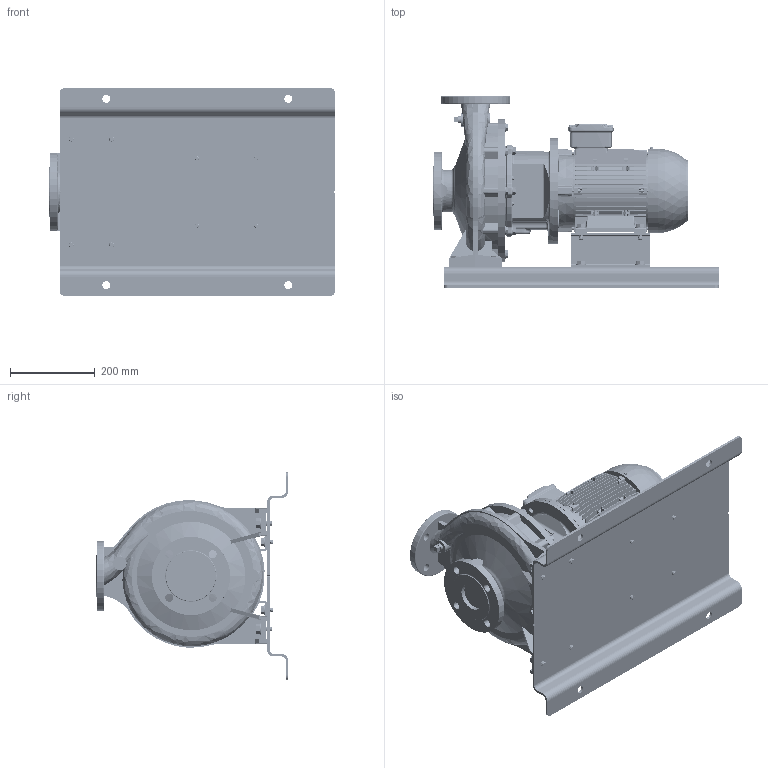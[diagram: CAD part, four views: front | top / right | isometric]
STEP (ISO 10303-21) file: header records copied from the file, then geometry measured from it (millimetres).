
FILE_DESCRIPTION (( 'STEP AP214' ), '1' );
FILE_NAME ('GSD4 50-250_3.0_(100L)_W21_BP.STEP', '2024-08-12T05:47:45', ( '' ), ( '' ), 'SwSTEP 2.0', 'SolidWorks 2019', '' );
FILE_SCHEMA (( 'AUTOMOTIVE_DESIGN' ));
Length unit declared in the file: millimetre
Products named in the file (10): 140 x 80 - 271472220; 100L ALIE3_W21T_B35; Parametric bolt_SFT-A299B; Parametric bolt_SFT-A253B; Parametric Flat Washer_M10; 50-250-100L_______; Parametric Flat Washer_M12; GSD4 50-250_3.0_(100L)_W21_BP; Parametric bolt_SFT-A249B; N5S5 GSDA-552 F1-1832915-00
Assembly tree (29 placements, depth 2):
  GSD4 50-250_3.0_(100L)_W21_BP
    50-250-100L_______
    100L ALIE3_W21T_B35
    N5S5 GSDA-552 F1-1832915-00
    140 x 80 - 271472220  x2
    Parametric bolt_SFT-A249B  x4
    Parametric bolt_SFT-A253B  x4
    Parametric bolt_SFT-A299B  x4
    Parametric Flat Washer_M12  x4
    Parametric Flat Washer_M10  x8
Bounding box: 675 x 455 x 490 mm (x, y, z)
Volume: 22206472.1 mm3; surface area: 2399634.4 mm2
Topology: 32 solids, 33 shells, 4480 faces, 11663 edges, 7496 vertices
Faces by surface type: plane 2437, cylinder 1215, torus 317, cone 247, bspline 246, sphere 18
Entity records: 182889 total; most frequent: CARTESIAN_POINT 87365, ORIENTED_EDGE 20644, DIRECTION 18539, EDGE_CURVE 10322, VERTEX_POINT 6640, VECTOR 6341, LINE 6341, AXIS2_PLACEMENT_3D 6099
